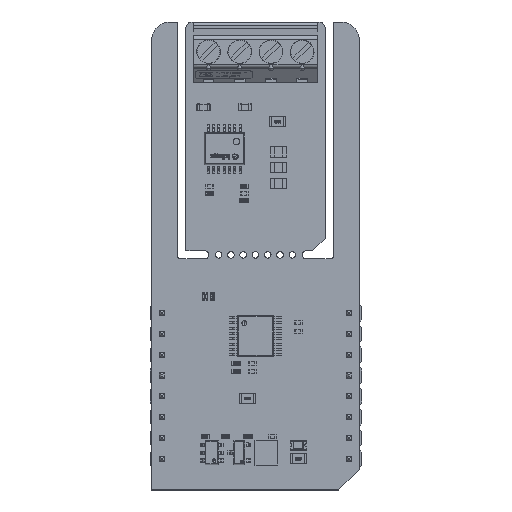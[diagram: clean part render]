
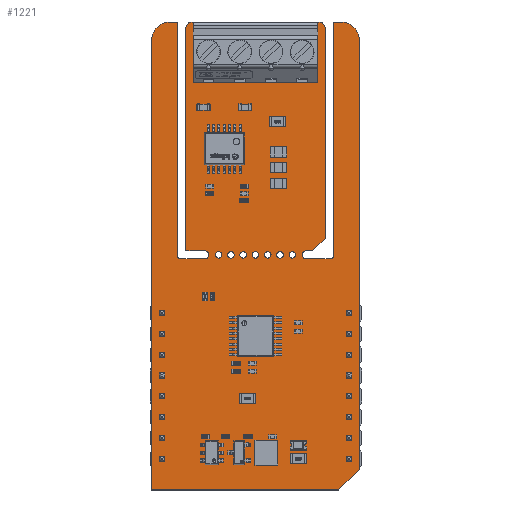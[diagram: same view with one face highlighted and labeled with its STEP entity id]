
A CAD part, top view. The second image highlights one B-rep face of the part: STEP entity #1221.
In plain terms, the highlighted planar face has unit normal (0, 0, 1).
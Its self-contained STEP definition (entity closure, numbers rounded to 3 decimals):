
#184 = VERTEX_POINT('',#185);
#185 = CARTESIAN_POINT('',(1.905,24.8,1.59));
#191 = EDGE_CURVE('',#184,#192,#194,.T.);
#192 = VERTEX_POINT('',#193);
#193 = CARTESIAN_POINT('',(2.305,24.4,1.59));
#194 = CIRCLE('',#195,0.399);
#195 = AXIS2_PLACEMENT_3D('',#196,#197,#198);
#196 = CARTESIAN_POINT('',(2.304,24.799,1.59));
#197 = DIRECTION('',(0.,0.,1.));
#198 = DIRECTION('',(-1.,0.001,0.));
#224 = EDGE_CURVE('',#192,#225,#227,.T.);
#225 = VERTEX_POINT('',#226);
#226 = CARTESIAN_POINT('',(5.23,24.4,1.59));
#227 = LINE('',#228,#229);
#228 = CARTESIAN_POINT('',(2.305,24.4,1.59));
#229 = VECTOR('',#230,1.);
#230 = DIRECTION('',(1.,0.,0.));
#255 = EDGE_CURVE('',#225,#256,#258,.T.);
#256 = VERTEX_POINT('',#257);
#257 = CARTESIAN_POINT('',(5.23,25.4,1.59));
#258 = CIRCLE('',#259,0.5);
#259 = AXIS2_PLACEMENT_3D('',#260,#261,#262);
#260 = CARTESIAN_POINT('',(5.23,24.9,1.59));
#261 = DIRECTION('',(0.,0.,1.));
#262 = DIRECTION('',(-0.,-1.,0.));
#288 = EDGE_CURVE('',#256,#289,#291,.T.);
#289 = VERTEX_POINT('',#290);
#290 = CARTESIAN_POINT('',(2.921,25.4,1.59));
#291 = LINE('',#292,#293);
#292 = CARTESIAN_POINT('',(5.23,25.4,1.59));
#293 = VECTOR('',#294,1.);
#294 = DIRECTION('',(-1.,0.,0.));
#319 = EDGE_CURVE('',#289,#320,#322,.T.);
#320 = VERTEX_POINT('',#321);
#321 = CARTESIAN_POINT('',(2.921,52.578,1.59));
#322 = LINE('',#323,#324);
#323 = CARTESIAN_POINT('',(2.921,25.4,1.59));
#324 = VECTOR('',#325,1.);
#325 = DIRECTION('',(0.,1.,0.));
#350 = EDGE_CURVE('',#320,#351,#353,.T.);
#351 = VERTEX_POINT('',#352);
#352 = CARTESIAN_POINT('',(3.683,53.34,1.59));
#353 = CIRCLE('',#354,0.761);
#354 = AXIS2_PLACEMENT_3D('',#355,#356,#357);
#355 = CARTESIAN_POINT('',(3.682,52.579,1.59));
#356 = DIRECTION('',(0.,0.,-1.));
#357 = DIRECTION('',(-1.,-0.001,-0.));
#383 = EDGE_CURVE('',#351,#384,#386,.T.);
#384 = VERTEX_POINT('',#385);
#385 = CARTESIAN_POINT('',(19.177,53.34,1.59));
#386 = LINE('',#387,#388);
#387 = CARTESIAN_POINT('',(3.683,53.34,1.59));
#388 = VECTOR('',#389,1.);
#389 = DIRECTION('',(1.,0.,0.));
#414 = EDGE_CURVE('',#384,#415,#417,.T.);
#415 = VERTEX_POINT('',#416);
#416 = CARTESIAN_POINT('',(19.939,52.578,1.59));
#417 = CIRCLE('',#418,0.761);
#418 = AXIS2_PLACEMENT_3D('',#419,#420,#421);
#419 = CARTESIAN_POINT('',(19.178,52.579,1.59));
#420 = DIRECTION('',(0.,0.,-1.));
#421 = DIRECTION('',(-0.001,1.,0.));
#447 = EDGE_CURVE('',#415,#448,#450,.T.);
#448 = VERTEX_POINT('',#449);
#449 = CARTESIAN_POINT('',(19.939,26.924,1.59));
#450 = LINE('',#451,#452);
#451 = CARTESIAN_POINT('',(19.939,52.578,1.59));
#452 = VECTOR('',#453,1.);
#453 = DIRECTION('',(0.,-1.,0.));
#478 = EDGE_CURVE('',#448,#479,#481,.T.);
#479 = VERTEX_POINT('',#480);
#480 = CARTESIAN_POINT('',(18.415,25.4,1.59));
#481 = LINE('',#482,#483);
#482 = CARTESIAN_POINT('',(19.939,26.924,1.59));
#483 = VECTOR('',#484,1.);
#484 = DIRECTION('',(-0.707,-0.707,0.));
#509 = EDGE_CURVE('',#479,#510,#512,.T.);
#510 = VERTEX_POINT('',#511);
#511 = CARTESIAN_POINT('',(17.63,25.4,1.59));
#512 = LINE('',#513,#514);
#513 = CARTESIAN_POINT('',(18.415,25.4,1.59));
#514 = VECTOR('',#515,1.);
#515 = DIRECTION('',(-1.,0.,0.));
#540 = EDGE_CURVE('',#510,#541,#543,.T.);
#541 = VERTEX_POINT('',#542);
#542 = CARTESIAN_POINT('',(17.63,24.4,1.59));
#543 = CIRCLE('',#544,0.5);
#544 = AXIS2_PLACEMENT_3D('',#545,#546,#547);
#545 = CARTESIAN_POINT('',(17.63,24.9,1.59));
#546 = DIRECTION('',(0.,-0.,1.));
#547 = DIRECTION('',(0.,1.,0.));
#573 = EDGE_CURVE('',#541,#574,#576,.T.);
#574 = VERTEX_POINT('',#575);
#575 = CARTESIAN_POINT('',(20.555,24.4,1.59));
#576 = LINE('',#577,#578);
#577 = CARTESIAN_POINT('',(17.63,24.4,1.59));
#578 = VECTOR('',#579,1.);
#579 = DIRECTION('',(1.,0.,0.));
#604 = EDGE_CURVE('',#574,#605,#607,.T.);
#605 = VERTEX_POINT('',#606);
#606 = CARTESIAN_POINT('',(20.955,24.8,1.59));
#607 = CIRCLE('',#608,0.399);
#608 = AXIS2_PLACEMENT_3D('',#609,#610,#611);
#609 = CARTESIAN_POINT('',(20.556,24.799,1.59));
#610 = DIRECTION('',(0.,0.,1.));
#611 = DIRECTION('',(-0.001,-1.,0.));
#637 = EDGE_CURVE('',#605,#638,#640,.T.);
#638 = VERTEX_POINT('',#639);
#639 = CARTESIAN_POINT('',(20.955,53.34,1.59));
#640 = LINE('',#641,#642);
#641 = CARTESIAN_POINT('',(20.955,24.8,1.59));
#642 = VECTOR('',#643,1.);
#643 = DIRECTION('',(0.,1.,0.));
#668 = EDGE_CURVE('',#638,#669,#671,.T.);
#669 = VERTEX_POINT('',#670);
#670 = CARTESIAN_POINT('',(21.844,53.34,1.59));
#671 = LINE('',#672,#673);
#672 = CARTESIAN_POINT('',(20.955,53.34,1.59));
#673 = VECTOR('',#674,1.);
#674 = DIRECTION('',(1.,0.,0.));
#699 = EDGE_CURVE('',#669,#700,#702,.T.);
#700 = VERTEX_POINT('',#701);
#701 = CARTESIAN_POINT('',(24.13,51.054,1.59));
#702 = CIRCLE('',#703,2.288);
#703 = AXIS2_PLACEMENT_3D('',#704,#705,#706);
#704 = CARTESIAN_POINT('',(21.842,51.052,1.59));
#705 = DIRECTION('',(0.,0.,-1.));
#706 = DIRECTION('',(0.001,1.,0.));
#732 = EDGE_CURVE('',#700,#733,#735,.T.);
#733 = VERTEX_POINT('',#734);
#734 = CARTESIAN_POINT('',(24.13,-1.27,1.59));
#735 = LINE('',#736,#737);
#736 = CARTESIAN_POINT('',(24.13,51.054,1.59));
#737 = VECTOR('',#738,1.);
#738 = DIRECTION('',(0.,-1.,0.));
#763 = EDGE_CURVE('',#733,#764,#766,.T.);
#764 = VERTEX_POINT('',#765);
#765 = CARTESIAN_POINT('',(21.59,-3.81,1.59));
#766 = LINE('',#767,#768);
#767 = CARTESIAN_POINT('',(24.13,-1.27,1.59));
#768 = VECTOR('',#769,1.);
#769 = DIRECTION('',(-0.707,-0.707,0.));
#794 = EDGE_CURVE('',#764,#795,#797,.T.);
#795 = VERTEX_POINT('',#796);
#796 = CARTESIAN_POINT('',(-1.27,-3.81,1.59));
#797 = LINE('',#798,#799);
#798 = CARTESIAN_POINT('',(21.59,-3.81,1.59));
#799 = VECTOR('',#800,1.);
#800 = DIRECTION('',(-1.,0.,0.));
#825 = EDGE_CURVE('',#795,#826,#828,.T.);
#826 = VERTEX_POINT('',#827);
#827 = CARTESIAN_POINT('',(-1.27,51.054,1.59));
#828 = LINE('',#829,#830);
#829 = CARTESIAN_POINT('',(-1.27,-3.81,1.59));
#830 = VECTOR('',#831,1.);
#831 = DIRECTION('',(0.,1.,0.));
#856 = EDGE_CURVE('',#826,#857,#859,.T.);
#857 = VERTEX_POINT('',#858);
#858 = CARTESIAN_POINT('',(1.016,53.34,1.59));
#859 = CIRCLE('',#860,2.288);
#860 = AXIS2_PLACEMENT_3D('',#861,#862,#863);
#861 = CARTESIAN_POINT('',(1.018,51.052,1.59));
#862 = DIRECTION('',(0.,0.,-1.));
#863 = DIRECTION('',(-1.,0.001,0.));
#889 = EDGE_CURVE('',#857,#890,#892,.T.);
#890 = VERTEX_POINT('',#891);
#891 = CARTESIAN_POINT('',(1.905,53.34,1.59));
#892 = LINE('',#893,#894);
#893 = CARTESIAN_POINT('',(1.016,53.34,1.59));
#894 = VECTOR('',#895,1.);
#895 = DIRECTION('',(1.,0.,0.));
#920 = EDGE_CURVE('',#890,#184,#921,.T.);
#921 = LINE('',#922,#923);
#922 = CARTESIAN_POINT('',(1.905,53.34,1.59));
#923 = VECTOR('',#924,1.);
#924 = DIRECTION('',(0.,-1.,0.));
#944 = VERTEX_POINT('',#945);
#945 = CARTESIAN_POINT('',(7.33,24.9,1.59));
#951 = EDGE_CURVE('',#944,#944,#952,.T.);
#952 = CIRCLE('',#953,0.4);
#953 = AXIS2_PLACEMENT_3D('',#954,#955,#956);
#954 = CARTESIAN_POINT('',(6.93,24.9,1.59));
#955 = DIRECTION('',(0.,0.,1.));
#956 = DIRECTION('',(1.,0.,-0.));
#977 = VERTEX_POINT('',#978);
#978 = CARTESIAN_POINT('',(8.83,24.9,1.59));
#984 = EDGE_CURVE('',#977,#977,#985,.T.);
#985 = CIRCLE('',#986,0.4);
#986 = AXIS2_PLACEMENT_3D('',#987,#988,#989);
#987 = CARTESIAN_POINT('',(8.43,24.9,1.59));
#988 = DIRECTION('',(0.,0.,1.));
#989 = DIRECTION('',(1.,0.,-0.));
#1010 = VERTEX_POINT('',#1011);
#1011 = CARTESIAN_POINT('',(10.33,24.9,1.59));
#1017 = EDGE_CURVE('',#1010,#1010,#1018,.T.);
#1018 = CIRCLE('',#1019,0.4);
#1019 = AXIS2_PLACEMENT_3D('',#1020,#1021,#1022);
#1020 = CARTESIAN_POINT('',(9.93,24.9,1.59));
#1021 = DIRECTION('',(0.,0.,1.));
#1022 = DIRECTION('',(1.,0.,-0.));
#1043 = VERTEX_POINT('',#1044);
#1044 = CARTESIAN_POINT('',(14.83,24.9,1.59));
#1050 = EDGE_CURVE('',#1043,#1043,#1051,.T.);
#1051 = CIRCLE('',#1052,0.4);
#1052 = AXIS2_PLACEMENT_3D('',#1053,#1054,#1055);
#1053 = CARTESIAN_POINT('',(14.43,24.9,1.59));
#1054 = DIRECTION('',(0.,0.,1.));
#1055 = DIRECTION('',(1.,0.,-0.));
#1076 = VERTEX_POINT('',#1077);
#1077 = CARTESIAN_POINT('',(16.33,24.9,1.59));
#1083 = EDGE_CURVE('',#1076,#1076,#1084,.T.);
#1084 = CIRCLE('',#1085,0.4);
#1085 = AXIS2_PLACEMENT_3D('',#1086,#1087,#1088);
#1086 = CARTESIAN_POINT('',(15.93,24.9,1.59));
#1087 = DIRECTION('',(0.,0.,1.));
#1088 = DIRECTION('',(1.,0.,-0.));
#1109 = VERTEX_POINT('',#1110);
#1110 = CARTESIAN_POINT('',(11.83,24.9,1.59));
#1116 = EDGE_CURVE('',#1109,#1109,#1117,.T.);
#1117 = CIRCLE('',#1118,0.4);
#1118 = AXIS2_PLACEMENT_3D('',#1119,#1120,#1121);
#1119 = CARTESIAN_POINT('',(11.43,24.9,1.59));
#1120 = DIRECTION('',(0.,0.,1.));
#1121 = DIRECTION('',(1.,0.,-0.));
#1142 = VERTEX_POINT('',#1143);
#1143 = CARTESIAN_POINT('',(13.33,24.9,1.59));
#1149 = EDGE_CURVE('',#1142,#1142,#1150,.T.);
#1150 = CIRCLE('',#1151,0.4);
#1151 = AXIS2_PLACEMENT_3D('',#1152,#1153,#1154);
#1152 = CARTESIAN_POINT('',(12.93,24.9,1.59));
#1153 = DIRECTION('',(0.,0.,1.));
#1154 = DIRECTION('',(1.,0.,-0.));
#1221 = ADVANCED_FACE('',(#1222,#1248,#1251,#1254,#1257,#1260,#1263,
    #1266),#1269,.F.);
#1222 = FACE_BOUND('',#1223,.F.);
#1223 = EDGE_LOOP('',(#1224,#1225,#1226,#1227,#1228,#1229,#1230,#1231,
    #1232,#1233,#1234,#1235,#1236,#1237,#1238,#1239,#1240,#1241,#1242,
    #1243,#1244,#1245,#1246,#1247));
#1224 = ORIENTED_EDGE('',*,*,#191,.T.);
#1225 = ORIENTED_EDGE('',*,*,#224,.T.);
#1226 = ORIENTED_EDGE('',*,*,#255,.T.);
#1227 = ORIENTED_EDGE('',*,*,#288,.T.);
#1228 = ORIENTED_EDGE('',*,*,#319,.T.);
#1229 = ORIENTED_EDGE('',*,*,#350,.T.);
#1230 = ORIENTED_EDGE('',*,*,#383,.T.);
#1231 = ORIENTED_EDGE('',*,*,#414,.T.);
#1232 = ORIENTED_EDGE('',*,*,#447,.T.);
#1233 = ORIENTED_EDGE('',*,*,#478,.T.);
#1234 = ORIENTED_EDGE('',*,*,#509,.T.);
#1235 = ORIENTED_EDGE('',*,*,#540,.T.);
#1236 = ORIENTED_EDGE('',*,*,#573,.T.);
#1237 = ORIENTED_EDGE('',*,*,#604,.T.);
#1238 = ORIENTED_EDGE('',*,*,#637,.T.);
#1239 = ORIENTED_EDGE('',*,*,#668,.T.);
#1240 = ORIENTED_EDGE('',*,*,#699,.T.);
#1241 = ORIENTED_EDGE('',*,*,#732,.T.);
#1242 = ORIENTED_EDGE('',*,*,#763,.T.);
#1243 = ORIENTED_EDGE('',*,*,#794,.T.);
#1244 = ORIENTED_EDGE('',*,*,#825,.T.);
#1245 = ORIENTED_EDGE('',*,*,#856,.T.);
#1246 = ORIENTED_EDGE('',*,*,#889,.T.);
#1247 = ORIENTED_EDGE('',*,*,#920,.T.);
#1248 = FACE_BOUND('',#1249,.F.);
#1249 = EDGE_LOOP('',(#1250));
#1250 = ORIENTED_EDGE('',*,*,#951,.T.);
#1251 = FACE_BOUND('',#1252,.F.);
#1252 = EDGE_LOOP('',(#1253));
#1253 = ORIENTED_EDGE('',*,*,#984,.T.);
#1254 = FACE_BOUND('',#1255,.F.);
#1255 = EDGE_LOOP('',(#1256));
#1256 = ORIENTED_EDGE('',*,*,#1017,.T.);
#1257 = FACE_BOUND('',#1258,.F.);
#1258 = EDGE_LOOP('',(#1259));
#1259 = ORIENTED_EDGE('',*,*,#1050,.T.);
#1260 = FACE_BOUND('',#1261,.F.);
#1261 = EDGE_LOOP('',(#1262));
#1262 = ORIENTED_EDGE('',*,*,#1083,.T.);
#1263 = FACE_BOUND('',#1264,.F.);
#1264 = EDGE_LOOP('',(#1265));
#1265 = ORIENTED_EDGE('',*,*,#1116,.T.);
#1266 = FACE_BOUND('',#1267,.F.);
#1267 = EDGE_LOOP('',(#1268));
#1268 = ORIENTED_EDGE('',*,*,#1149,.T.);
#1269 = PLANE('',#1270);
#1270 = AXIS2_PLACEMENT_3D('',#1271,#1272,#1273);
#1271 = CARTESIAN_POINT('',(11.331,30.158,1.59));
#1272 = DIRECTION('',(-0.,-0.,-1.));
#1273 = DIRECTION('',(-1.,0.,0.));
